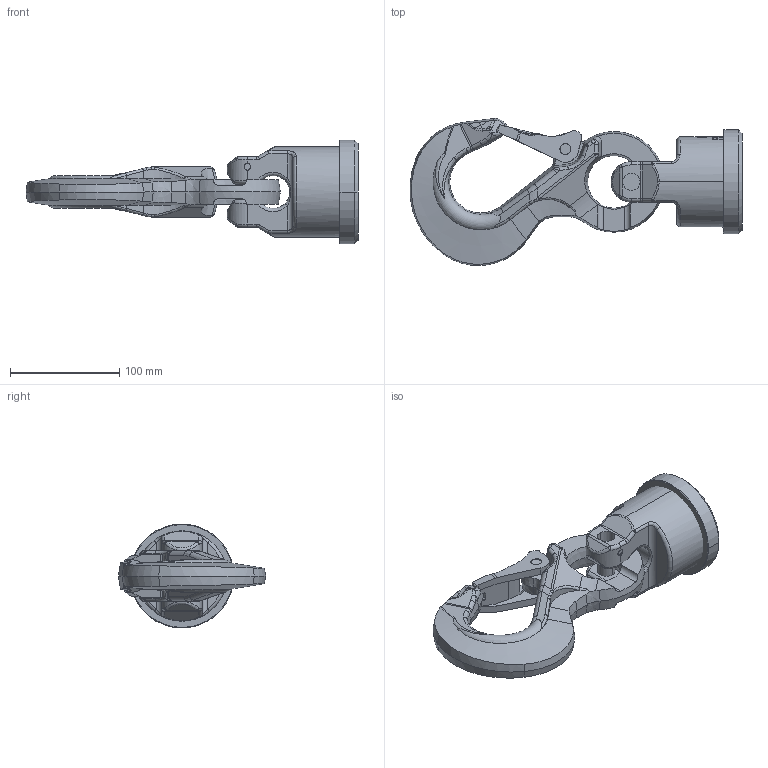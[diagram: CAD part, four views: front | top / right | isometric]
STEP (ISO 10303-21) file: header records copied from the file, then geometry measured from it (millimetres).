
FILE_DESCRIPTION((''),'2;1');
FILE_NAME('001-M31395-P-40_ASM','2018-04-26T',('Anja.Joas'),(''),'PRO/ENGINEER BY PARAMETRIC TECHNOLOGY CORPORATION, 2011490','PRO/ENGINEER BY PARAMETRIC TECHNOLOGY CORPORATION, 2011490','');
FILE_SCHEMA(('CONFIG_CONTROL_DESIGN'));
Length unit declared in the file: millimetre
Products named in the file (6): 001-M31395-P-20; 001-M31395-P-50; 001-M31479-001; 001-M31480-001; 001-M31479-002_ASM; 001-M31395-P-40_ASM
Assembly tree (5 placements, depth 3):
  001-M31395-P-40_ASM
    001-M31395-P-20
    001-M31395-P-50
    001-M31479-002_ASM
      001-M31479-001
      001-M31480-001
Bounding box: 303.38 x 134.49 x 95 mm (x, y, z)
Volume: 837698.8 mm3; surface area: 116899.3 mm2
Topology: 4 solids, 4 shells, 717 faces, 1894 edges, 1186 vertices
Faces by surface type: plane 379, cylinder 130, bspline 88, sphere 42, cone 42, torus 36
Entity records: 26813 total; most frequent: CARTESIAN_POINT 10200, ORIENTED_EDGE 3732, DIRECTION 3043, EDGE_CURVE 1866, VERTEX_POINT 1186, AXIS2_PLACEMENT_3D 1110, VECTOR 823, LINE 823
